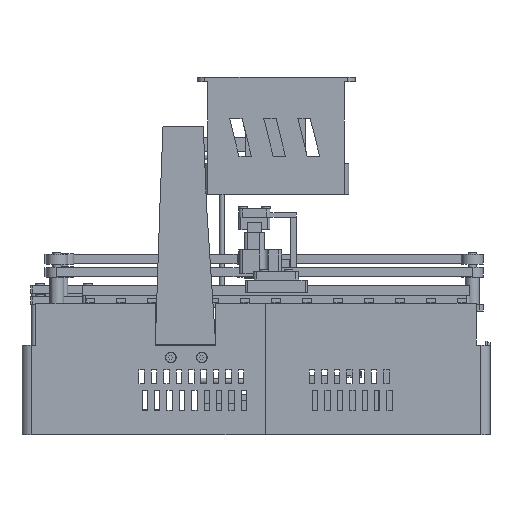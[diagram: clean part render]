
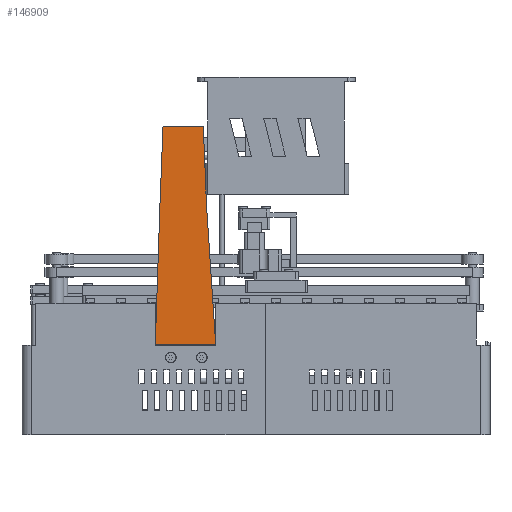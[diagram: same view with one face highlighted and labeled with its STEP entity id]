
A CAD part, left-side view. The second image highlights one B-rep face of the part: STEP entity #146909.
In plain terms, the highlighted planar face has unit normal (-1, 0, 0).
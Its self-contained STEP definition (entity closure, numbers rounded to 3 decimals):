
#146467 = EDGE_CURVE('',#146468,#146470,#146472,.T.);
#146468 = VERTEX_POINT('',#146469);
#146469 = CARTESIAN_POINT('',(-98.,211.,199.));
#146470 = VERTEX_POINT('',#146471);
#146471 = CARTESIAN_POINT('',(-98.,185.,199.));
#146472 = SURFACE_CURVE('',#146473,(#146477,#146489),.PCURVE_S1.);
#146473 = LINE('',#146474,#146475);
#146474 = CARTESIAN_POINT('',(-98.,211.,199.));
#146475 = VECTOR('',#146476,1.);
#146476 = DIRECTION('',(0.,-1.,0.));
#146477 = PCURVE('',#146478,#146483);
#146478 = PLANE('',#146479);
#146479 = AXIS2_PLACEMENT_3D('',#146480,#146481,#146482);
#146480 = CARTESIAN_POINT('',(0.,198.,199.));
#146481 = DIRECTION('',(0.,0.,1.));
#146482 = DIRECTION('',(1.,0.,-0.));
#146483 = DEFINITIONAL_REPRESENTATION('',(#146484),#146488);
#146484 = LINE('',#146485,#146486);
#146485 = CARTESIAN_POINT('',(-98.,13.));
#146486 = VECTOR('',#146487,1.);
#146487 = DIRECTION('',(0.,-1.));
#146488 = ( GEOMETRIC_REPRESENTATION_CONTEXT(2) 
PARAMETRIC_REPRESENTATION_CONTEXT() REPRESENTATION_CONTEXT('2D SPACE',''
  ) );
#146489 = PCURVE('',#146490,#146495);
#146490 = PLANE('',#146491);
#146491 = AXIS2_PLACEMENT_3D('',#146492,#146493,#146494);
#146492 = CARTESIAN_POINT('',(-98.,197.424,125.904));
#146493 = DIRECTION('',(1.,0.,0.));
#146494 = DIRECTION('',(0.,1.,0.));
#146495 = DEFINITIONAL_REPRESENTATION('',(#146496),#146500);
#146496 = LINE('',#146497,#146498);
#146497 = CARTESIAN_POINT('',(13.576,73.096));
#146498 = VECTOR('',#146499,1.);
#146499 = DIRECTION('',(-1.,0.));
#146500 = ( GEOMETRIC_REPRESENTATION_CONTEXT(2) 
PARAMETRIC_REPRESENTATION_CONTEXT() REPRESENTATION_CONTEXT('2D SPACE',''
  ) );
#146518 = PLANE('',#146519);
#146519 = AXIS2_PLACEMENT_3D('',#146520,#146521,#146522);
#146520 = CARTESIAN_POINT('',(-98.,185.,199.));
#146521 = DIRECTION('',(0.,0.999,-0.04));
#146522 = DIRECTION('',(0.,-0.04,-0.999));
#146898 = PLANE('',#146899);
#146899 = AXIS2_PLACEMENT_3D('',#146900,#146901,#146902);
#146900 = CARTESIAN_POINT('',(-98.,213.,148.));
#146901 = DIRECTION('',(0.,-0.999,-0.039));
#146902 = DIRECTION('',(0.,-0.039,0.999));
#146909 = ADVANCED_FACE('',(#146910),#146490,.F.);
#146910 = FACE_BOUND('',#146911,.F.);
#146911 = EDGE_LOOP('',(#146912,#146942,#146970,#146991,#146992,#147015)
  );
#146912 = ORIENTED_EDGE('',*,*,#146913,.T.);
#146913 = EDGE_CURVE('',#146914,#146916,#146918,.T.);
#146914 = VERTEX_POINT('',#146915);
#146915 = CARTESIAN_POINT('',(-98.,177.,58.1));
#146916 = VERTEX_POINT('',#146917);
#146917 = CARTESIAN_POINT('',(-98.,216.,58.1));
#146918 = SURFACE_CURVE('',#146919,(#146923,#146930),.PCURVE_S1.);
#146919 = LINE('',#146920,#146921);
#146920 = CARTESIAN_POINT('',(-98.,177.,58.1));
#146921 = VECTOR('',#146922,1.);
#146922 = DIRECTION('',(0.,1.,0.));
#146923 = PCURVE('',#146490,#146924);
#146924 = DEFINITIONAL_REPRESENTATION('',(#146925),#146929);
#146925 = LINE('',#146926,#146927);
#146926 = CARTESIAN_POINT('',(-20.424,-67.804));
#146927 = VECTOR('',#146928,1.);
#146928 = DIRECTION('',(1.,0.));
#146929 = ( GEOMETRIC_REPRESENTATION_CONTEXT(2) 
PARAMETRIC_REPRESENTATION_CONTEXT() REPRESENTATION_CONTEXT('2D SPACE',''
  ) );
#146930 = PCURVE('',#146931,#146936);
#146931 = PLANE('',#146932);
#146932 = AXIS2_PLACEMENT_3D('',#146933,#146934,#146935);
#146933 = CARTESIAN_POINT('',(-98.,177.,58.1));
#146934 = DIRECTION('',(0.,0.,1.));
#146935 = DIRECTION('',(0.,1.,0.));
#146936 = DEFINITIONAL_REPRESENTATION('',(#146937),#146941);
#146937 = LINE('',#146938,#146939);
#146938 = CARTESIAN_POINT('',(0.,0.));
#146939 = VECTOR('',#146940,1.);
#146940 = DIRECTION('',(1.,0.));
#146941 = ( GEOMETRIC_REPRESENTATION_CONTEXT(2) 
PARAMETRIC_REPRESENTATION_CONTEXT() REPRESENTATION_CONTEXT('2D SPACE',''
  ) );
#146942 = ORIENTED_EDGE('',*,*,#146943,.T.);
#146943 = EDGE_CURVE('',#146916,#146944,#146946,.T.);
#146944 = VERTEX_POINT('',#146945);
#146945 = CARTESIAN_POINT('',(-98.,213.,148.));
#146946 = SURFACE_CURVE('',#146947,(#146951,#146958),.PCURVE_S1.);
#146947 = LINE('',#146948,#146949);
#146948 = CARTESIAN_POINT('',(-98.,216.,58.1));
#146949 = VECTOR('',#146950,1.);
#146950 = DIRECTION('',(0.,-0.033,0.999));
#146951 = PCURVE('',#146490,#146952);
#146952 = DEFINITIONAL_REPRESENTATION('',(#146953),#146957);
#146953 = LINE('',#146954,#146955);
#146954 = CARTESIAN_POINT('',(18.576,-67.804));
#146955 = VECTOR('',#146956,1.);
#146956 = DIRECTION('',(-0.033,0.999));
#146957 = ( GEOMETRIC_REPRESENTATION_CONTEXT(2) 
PARAMETRIC_REPRESENTATION_CONTEXT() REPRESENTATION_CONTEXT('2D SPACE',''
  ) );
#146958 = PCURVE('',#146959,#146964);
#146959 = PLANE('',#146960);
#146960 = AXIS2_PLACEMENT_3D('',#146961,#146962,#146963);
#146961 = CARTESIAN_POINT('',(-98.,216.,58.1));
#146962 = DIRECTION('',(0.,-0.999,-0.033));
#146963 = DIRECTION('',(0.,-0.033,0.999));
#146964 = DEFINITIONAL_REPRESENTATION('',(#146965),#146969);
#146965 = LINE('',#146966,#146967);
#146966 = CARTESIAN_POINT('',(0.,0.));
#146967 = VECTOR('',#146968,1.);
#146968 = DIRECTION('',(1.,0.));
#146969 = ( GEOMETRIC_REPRESENTATION_CONTEXT(2) 
PARAMETRIC_REPRESENTATION_CONTEXT() REPRESENTATION_CONTEXT('2D SPACE',''
  ) );
#146970 = ORIENTED_EDGE('',*,*,#146971,.T.);
#146971 = EDGE_CURVE('',#146944,#146468,#146972,.T.);
#146972 = SURFACE_CURVE('',#146973,(#146977,#146984),.PCURVE_S1.);
#146973 = LINE('',#146974,#146975);
#146974 = CARTESIAN_POINT('',(-98.,213.,148.));
#146975 = VECTOR('',#146976,1.);
#146976 = DIRECTION('',(0.,-0.039,0.999));
#146977 = PCURVE('',#146490,#146978);
#146978 = DEFINITIONAL_REPRESENTATION('',(#146979),#146983);
#146979 = LINE('',#146980,#146981);
#146980 = CARTESIAN_POINT('',(15.576,22.096));
#146981 = VECTOR('',#146982,1.);
#146982 = DIRECTION('',(-0.039,0.999));
#146983 = ( GEOMETRIC_REPRESENTATION_CONTEXT(2) 
PARAMETRIC_REPRESENTATION_CONTEXT() REPRESENTATION_CONTEXT('2D SPACE',''
  ) );
#146984 = PCURVE('',#146898,#146985);
#146985 = DEFINITIONAL_REPRESENTATION('',(#146986),#146990);
#146986 = LINE('',#146987,#146988);
#146987 = CARTESIAN_POINT('',(0.,0.));
#146988 = VECTOR('',#146989,1.);
#146989 = DIRECTION('',(1.,0.));
#146990 = ( GEOMETRIC_REPRESENTATION_CONTEXT(2) 
PARAMETRIC_REPRESENTATION_CONTEXT() REPRESENTATION_CONTEXT('2D SPACE',''
  ) );
#146991 = ORIENTED_EDGE('',*,*,#146467,.T.);
#146992 = ORIENTED_EDGE('',*,*,#146993,.T.);
#146993 = EDGE_CURVE('',#146470,#146994,#146996,.T.);
#146994 = VERTEX_POINT('',#146995);
#146995 = CARTESIAN_POINT('',(-98.,183.,149.));
#146996 = SURFACE_CURVE('',#146997,(#147001,#147008),.PCURVE_S1.);
#146997 = LINE('',#146998,#146999);
#146998 = CARTESIAN_POINT('',(-98.,185.,199.));
#146999 = VECTOR('',#147000,1.);
#147000 = DIRECTION('',(0.,-0.04,-0.999));
#147001 = PCURVE('',#146490,#147002);
#147002 = DEFINITIONAL_REPRESENTATION('',(#147003),#147007);
#147003 = LINE('',#147004,#147005);
#147004 = CARTESIAN_POINT('',(-12.424,73.096));
#147005 = VECTOR('',#147006,1.);
#147006 = DIRECTION('',(-0.04,-0.999));
#147007 = ( GEOMETRIC_REPRESENTATION_CONTEXT(2) 
PARAMETRIC_REPRESENTATION_CONTEXT() REPRESENTATION_CONTEXT('2D SPACE',''
  ) );
#147008 = PCURVE('',#146518,#147009);
#147009 = DEFINITIONAL_REPRESENTATION('',(#147010),#147014);
#147010 = LINE('',#147011,#147012);
#147011 = CARTESIAN_POINT('',(0.,0.));
#147012 = VECTOR('',#147013,1.);
#147013 = DIRECTION('',(1.,0.));
#147014 = ( GEOMETRIC_REPRESENTATION_CONTEXT(2) 
PARAMETRIC_REPRESENTATION_CONTEXT() REPRESENTATION_CONTEXT('2D SPACE',''
  ) );
#147015 = ORIENTED_EDGE('',*,*,#147016,.T.);
#147016 = EDGE_CURVE('',#146994,#146914,#147017,.T.);
#147017 = SURFACE_CURVE('',#147018,(#147022,#147029),.PCURVE_S1.);
#147018 = LINE('',#147019,#147020);
#147019 = CARTESIAN_POINT('',(-98.,183.,149.));
#147020 = VECTOR('',#147021,1.);
#147021 = DIRECTION('',(0.,-0.066,-0.998));
#147022 = PCURVE('',#146490,#147023);
#147023 = DEFINITIONAL_REPRESENTATION('',(#147024),#147028);
#147024 = LINE('',#147025,#147026);
#147025 = CARTESIAN_POINT('',(-14.424,23.096));
#147026 = VECTOR('',#147027,1.);
#147027 = DIRECTION('',(-0.066,-0.998));
#147028 = ( GEOMETRIC_REPRESENTATION_CONTEXT(2) 
PARAMETRIC_REPRESENTATION_CONTEXT() REPRESENTATION_CONTEXT('2D SPACE',''
  ) );
#147029 = PCURVE('',#147030,#147035);
#147030 = PLANE('',#147031);
#147031 = AXIS2_PLACEMENT_3D('',#147032,#147033,#147034);
#147032 = CARTESIAN_POINT('',(-98.,183.,149.));
#147033 = DIRECTION('',(0.,0.998,-0.066));
#147034 = DIRECTION('',(0.,-0.066,-0.998));
#147035 = DEFINITIONAL_REPRESENTATION('',(#147036),#147040);
#147036 = LINE('',#147037,#147038);
#147037 = CARTESIAN_POINT('',(0.,0.));
#147038 = VECTOR('',#147039,1.);
#147039 = DIRECTION('',(1.,0.));
#147040 = ( GEOMETRIC_REPRESENTATION_CONTEXT(2) 
PARAMETRIC_REPRESENTATION_CONTEXT() REPRESENTATION_CONTEXT('2D SPACE',''
  ) );
